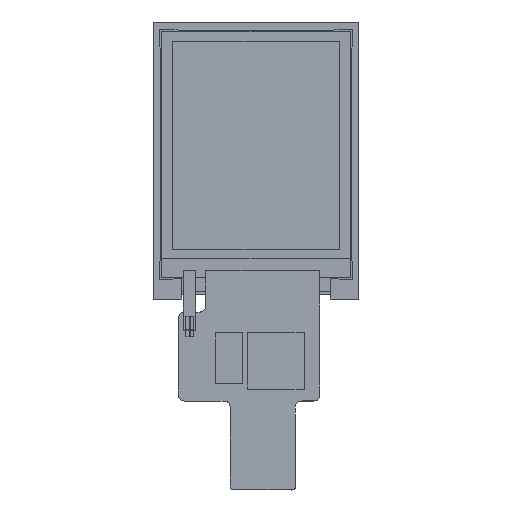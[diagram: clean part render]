
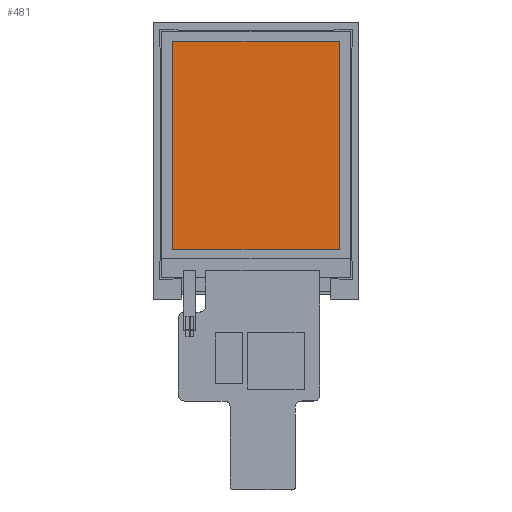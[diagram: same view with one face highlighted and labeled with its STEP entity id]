
A CAD part, top view. The second image highlights one B-rep face of the part: STEP entity #481.
In plain terms, the highlighted planar face has unit normal (0, 0, 1).
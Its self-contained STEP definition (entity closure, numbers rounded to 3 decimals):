
#481=ADVANCED_FACE('',(#771),#628,.F.);
#628=PLANE('',#2621);
#771=FACE_OUTER_BOUND('',#918,.T.);
#918=EDGE_LOOP('',(#1267,#1268,#1269,#1270));
#1267=ORIENTED_EDGE('',*,*,#2015,.F.);
#1268=ORIENTED_EDGE('',*,*,#2024,.F.);
#1269=ORIENTED_EDGE('',*,*,#2021,.F.);
#1270=ORIENTED_EDGE('',*,*,#2018,.F.);
#1757=VERTEX_POINT('',#3590);
#1758=VERTEX_POINT('',#3592);
#1760=VERTEX_POINT('',#3598);
#1762=VERTEX_POINT('',#3604);
#2015=EDGE_CURVE('',#1757,#1758,#2294,.T.);
#2018=EDGE_CURVE('',#1758,#1760,#2297,.T.);
#2021=EDGE_CURVE('',#1760,#1762,#2300,.T.);
#2024=EDGE_CURVE('',#1762,#1757,#2303,.T.);
#2294=LINE('',#3591,#2467);
#2297=LINE('',#3597,#2470);
#2300=LINE('',#3603,#2473);
#2303=LINE('',#3608,#2476);
#2467=VECTOR('',#2878,1.);
#2470=VECTOR('',#2883,1.);
#2473=VECTOR('',#2888,1.);
#2476=VECTOR('',#2893,1.);
#2621=AXIS2_PLACEMENT_3D('',#3610,#2896,#2897);
#2878=DIRECTION('',(0.,1.,0.));
#2883=DIRECTION('',(1.,0.,0.));
#2888=DIRECTION('',(0.,-1.,0.));
#2893=DIRECTION('',(-1.,0.,0.));
#2896=DIRECTION('',(0.,0.,-1.));
#2897=DIRECTION('',(-1.,0.,0.));
#3590=CARTESIAN_POINT('',(4502.105,-11559.528,0.1));
#3591=CARTESIAN_POINT('',(4502.105,-11559.528,0.1));
#3592=CARTESIAN_POINT('',(4502.105,-11524.488,0.1));
#3597=CARTESIAN_POINT('',(4502.105,-11524.488,0.1));
#3598=CARTESIAN_POINT('',(4530.137,-11524.488,0.1));
#3603=CARTESIAN_POINT('',(4530.137,-11524.488,0.1));
#3604=CARTESIAN_POINT('',(4530.137,-11559.528,0.1));
#3608=CARTESIAN_POINT('',(4530.137,-11559.528,0.1));
#3610=CARTESIAN_POINT('',(4502.105,-11524.488,0.1));
